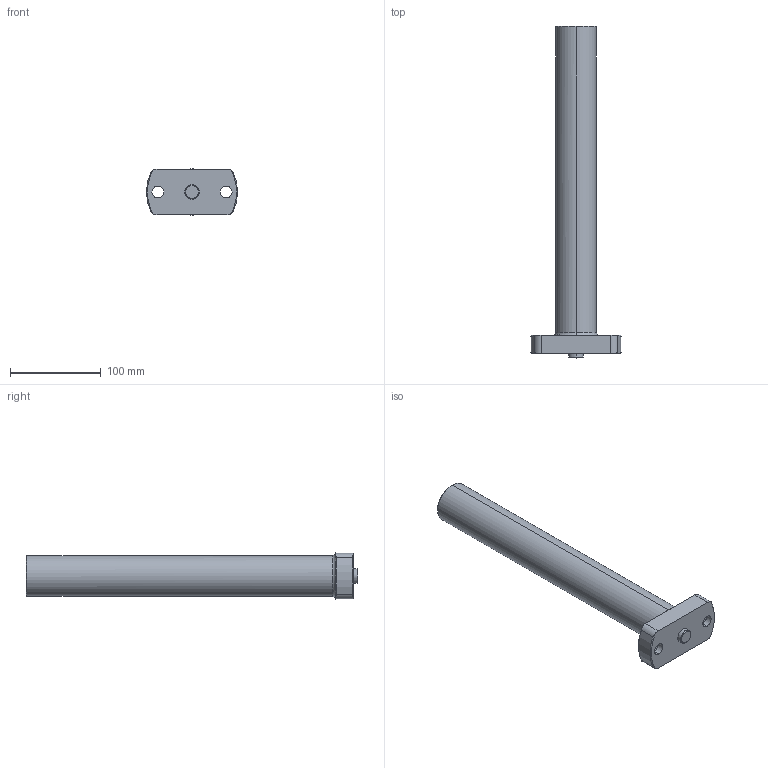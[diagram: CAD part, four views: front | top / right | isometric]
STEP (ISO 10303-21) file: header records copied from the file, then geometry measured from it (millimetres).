
FILE_DESCRIPTION(('CATIA V5 STEP Exchange'),'2;1');
FILE_NAME('C:\Users\Utente\Desktop\IO LAVORO\3D X SITO CF\X 3D SITO CF 27-09-2020\720\720-045 +360 .stp','2020-10-25T12:51:47+00:00',('none'),('none'),'CATIA Version 5 Release 20 GA (IN-10)','CATIA V5 STEP AP203','none');
FILE_SCHEMA(('CONFIG_CONTROL_DESIGN'));
Length unit declared in the file: millimetre
Products named in the file (1): 720-045 +360 
Bounding box: 99.65 x 365 x 51 mm (x, y, z)
Volume: 627142.9 mm3; surface area: 64610.5 mm2
Topology: 1 solids, 1 shells, 39 faces, 100 edges, 66 vertices
Faces by surface type: cylinder 18, plane 11, cone 8, torus 2
Entity records: 1389 total; most frequent: CARTESIAN_POINT 443, ORIENTED_EDGE 200, DIRECTION 150, EDGE_CURVE 100, AXIS2_PLACEMENT_3D 80, VERTEX_POINT 66, EDGE_LOOP 46, CIRCLE 40
